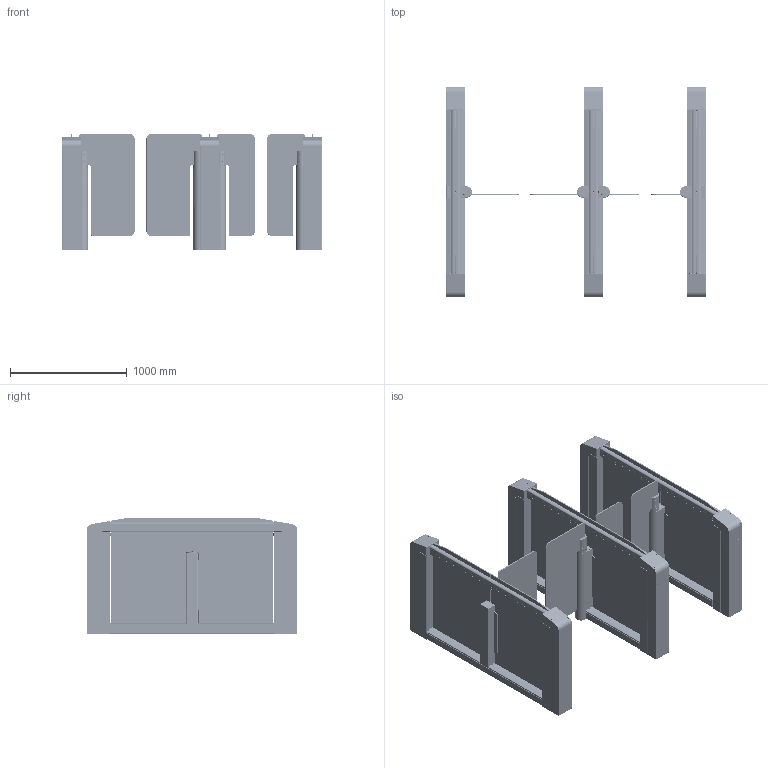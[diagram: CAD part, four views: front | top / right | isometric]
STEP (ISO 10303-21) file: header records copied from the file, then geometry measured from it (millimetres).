
FILE_DESCRIPTION(/* description */ ('Unknown'),/* implementation_level */ '2;1');
FILE_NAME(/* name */ '55870021_01',/* time_stamp */ '2023-10-10T13:57:21+02:00',/* author */ ('Unknown'),/* organization */ ('Unknown'),/* preprocessor_version */ 'ST-DEVELOPER v18.104',/* originating_system */ 'Solid Edge',/* authorisation */ 'Unknown');
FILE_SCHEMA (('AUTOMOTIVE_DESIGN {1 0 10303 214 3 1 1}'));
Products named in the file (197): 55870021; 55170135_A-Unit_oa_0; 10436089_oa_1; 21085227; 20695165; 10435935_oa_2; 20625056; 10310646; 10310646a; 10310646b; 10436089a; 34985000; 34980016; 33060023; 21085225_kpl; 21085225; 32205000_650; 20695200; 20695199; 32205000_1400; 10435935_oa_3; 20180434; 20185022; 20185022a; 20185022b; 32240020_1400mm; 20695190; 10405030; 20415146; 20415145; 35165002; 34845100; 55075368_oa_4; 10565524_oa_5; 20345785; 20345785a; Gewindeschweissbolzen_M5x16; 20695145; 35750131_35750127_oa_6; 10565524_Glashalter-Pos_re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
Assembly tree (712 placements, depth 7):
  55870021
    55170135_A-Unit_oa_0
      10436089_oa_1
        21085227
        20695165  x2
        10435935_oa_2
          20625056
          10310646
            10310646a
            10310646b
        10436089a  x4
          34985000
          34980016
          33060023
        21085225_kpl  x4
          21085225
          32205000_650
          20695200
          20695199
        32205000_1400  x2
        10435935_oa_3
          20625056
          10310646
            10310646a
            10310646b
        20180434
        20185022
          20185022a
          20185022b
        32240020_1400mm
        20695190  x8
      10405030
        20415146  x2
        20415145
        35165002  x4
        34845100  x12
      55075368_oa_4
        10565524_oa_5
          20345785
            20345785a
            Gewindeschweissbolzen_M5x16
          20695145
          35750131_35750127_oa_6
        10565524_Glashalter-Pos_re
        10455928
          20295893
          20595811
            20595811a
            20595811b
            20595811_485_600_Kehlnaht 2_oa_7
            Gewindeschweissbolzen_M5x16
            20595811c
            20595811_485_600_Kehlnaht 2_oa_8
          10455928a
            20180333
              20180333a
              20180333b
            33060007  x2
            35130009  x2
            34980020  x2
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Bounding box: 2222.31 x 1800 x 1000 mm (x, y, z)
Volume: 90812458.4 mm3; surface area: 41572640.1 mm2
Topology: 751 solids, 787 shells, 25999 faces, 68033 edges, 44264 vertices
Faces by surface type: plane 14735, cylinder 9044, cone 1420, bspline 460, torus 262, sphere 78
Full cylindrical faces by diameter (mm): 0.1 x8, 0.5 x160, 1 x14, 2.459 x48, 2.5 x8, 2.675 x8, 3 x52, 3.2 x28, 3.242 x80, 3.4 x8, 4 x62, 4.134 x16, 4.2 x8, 4.5 x30, 4.773 x4, 4.917 x84, 5 x56, 5.3 x8, 5.5 x60, 5.6 x12, 6 x208, 6.4 x32, 6.466 x48, 6.5 x76, 6.6 x48, 6.647 x92, 7 x20, 7.5 x88, 8 x126, 8.4 x16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
Entity records: 179357 total; most frequent: CARTESIAN_POINT 34734, DIRECTION 28260, ORIENTED_EDGE 26266, EDGE_CURVE 13137, AXIS2_PLACEMENT_3D 9764, VERTEX_POINT 8792, LINE 8732, VECTOR 8732
